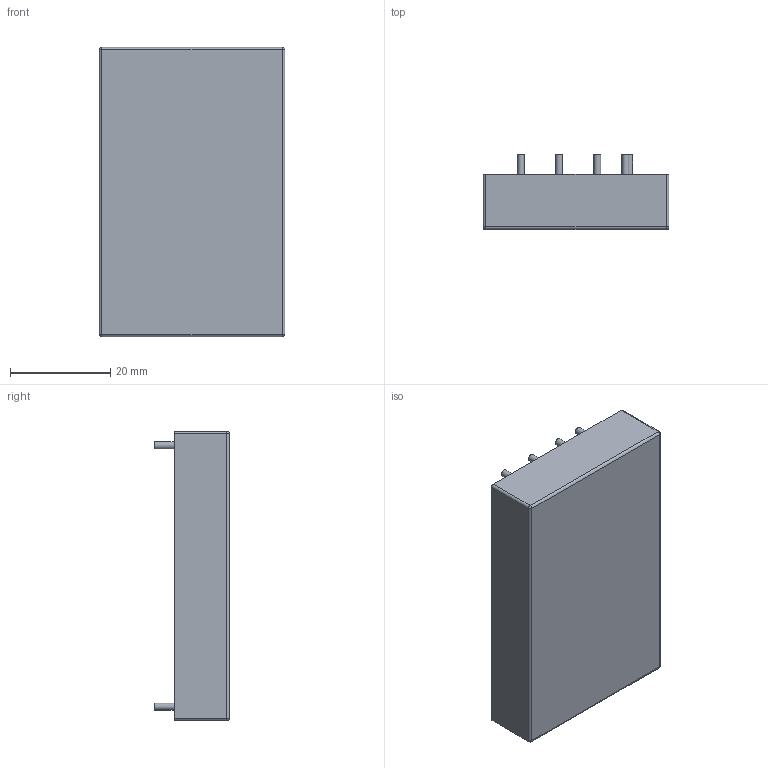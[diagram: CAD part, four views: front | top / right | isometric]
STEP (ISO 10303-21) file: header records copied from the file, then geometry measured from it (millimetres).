
FILE_DESCRIPTION(/* description */ (''),/* implementation_level */ '2;1');
FILE_NAME(/* name */ '',/* time_stamp */ '2022-03-21T10:53:07+01:00',/* author */ (''),/* organization */ (''),/* preprocessor_version */ 'ST-DEVELOPER v18.1',/* originating_system */ '',/* authorisation */ '');
FILE_SCHEMA (('AUTOMOTIVE_DESIGN { 1 0 10303 214 3 1 1 }'));
Length unit declared in the file: millimetre
Products named in the file (1): JETDi120-C4_case_v1_pins
Bounding box: 37.08 x 14.92 x 57.66 mm (x, y, z)
Volume: 22367.3 mm3; surface area: 6526.4 mm2
Topology: 1 solids, 1 shells, 41 faces, 81 edges, 50 vertices
Faces by surface type: cylinder 19, plane 18, sphere 4
Full cylindrical faces by diameter (mm): 1.4 x7
Entity records: 1098 total; most frequent: DIRECTION 203, CARTESIAN_POINT 173, ORIENTED_EDGE 162, EDGE_CURVE 81, AXIS2_PLACEMENT_3D 80, VERTEX_POINT 50, EDGE_LOOP 49, LINE 43
